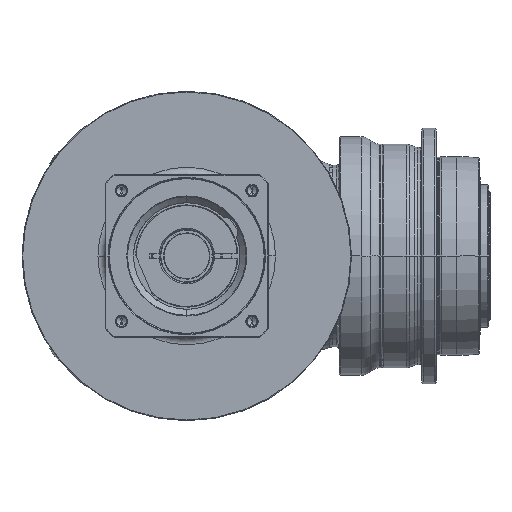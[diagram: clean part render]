
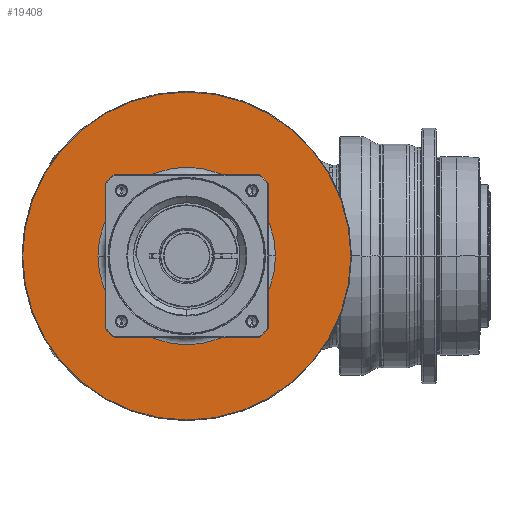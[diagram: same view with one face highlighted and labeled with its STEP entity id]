
A CAD part, front view. The second image highlights one B-rep face of the part: STEP entity #19408.
In plain terms, the highlighted planar face has unit normal (0, -1, 0) as drawn and (1, 0, 0) by its records, which use the part's own axes.
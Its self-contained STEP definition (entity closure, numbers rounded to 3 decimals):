
#18887=CARTESIAN_POINT('',(-7.5,0.,0.));
#18888=DIRECTION('',(-1.,0.,0.));
#18889=DIRECTION('',(0.,-1.,0.));
#18890=AXIS2_PLACEMENT_3D('',#18887,#18888,#18889);
#18892=CARTESIAN_POINT('',(-7.5,0.,0.));
#18893=DIRECTION('',(-1.,0.,0.));
#18894=DIRECTION('',(0.,1.,0.));
#18895=AXIS2_PLACEMENT_3D('',#18892,#18893,#18894);
#18897=CARTESIAN_POINT('',(-7.5,0.,0.));
#18898=DIRECTION('',(-1.,0.,0.));
#18899=DIRECTION('',(0.,-1.,0.));
#18900=AXIS2_PLACEMENT_3D('',#18897,#18898,#18899);
#18902=CARTESIAN_POINT('',(-7.5,0.,0.));
#18903=DIRECTION('',(-1.,0.,0.));
#18904=DIRECTION('',(0.,1.,0.));
#18905=AXIS2_PLACEMENT_3D('',#18902,#18903,#18904);
#18971=CARTESIAN_POINT('',(-7.5,-115.5,0.));
#18972=CARTESIAN_POINT('',(-7.5,115.5,0.));
#18973=VERTEX_POINT('',#18971);
#18974=VERTEX_POINT('',#18972);
#18995=CARTESIAN_POINT('',(-7.5,-62.5,0.));
#18996=CARTESIAN_POINT('',(-7.5,62.5,0.));
#18997=VERTEX_POINT('',#18995);
#18998=VERTEX_POINT('',#18996);
#19393=CARTESIAN_POINT('',(-7.5,0.,0.));
#19394=DIRECTION('',(1.,0.,0.));
#19395=DIRECTION('',(0.,-1.,0.));
#19396=AXIS2_PLACEMENT_3D('',#19393,#19394,#19395);
#19397=PLANE('',#19396);
#19398=ORIENTED_EDGE('',*,*,#19334,.T.);
#19399=ORIENTED_EDGE('',*,*,#19349,.T.);
#19400=EDGE_LOOP('',(#19398,#19399));
#19401=FACE_OUTER_BOUND('',#19400,.F.);
#19403=ORIENTED_EDGE('',*,*,#19402,.F.);
#19405=ORIENTED_EDGE('',*,*,#19404,.F.);
#19406=EDGE_LOOP('',(#19403,#19405));
#19407=FACE_BOUND('',#19406,.F.);
#19408=ADVANCED_FACE('',(#19401,#19407),#19397,.T.);
#18891=CIRCLE('',#18890,62.5);
#18896=CIRCLE('',#18895,62.5);
#18901=CIRCLE('',#18900,115.5);
#18906=CIRCLE('',#18905,115.5);
#19334=EDGE_CURVE('',#18973,#18974,#18901,.T.);
#19349=EDGE_CURVE('',#18974,#18973,#18906,.T.);
#19402=EDGE_CURVE('',#18997,#18998,#18891,.T.);
#19404=EDGE_CURVE('',#18998,#18997,#18896,.T.);
